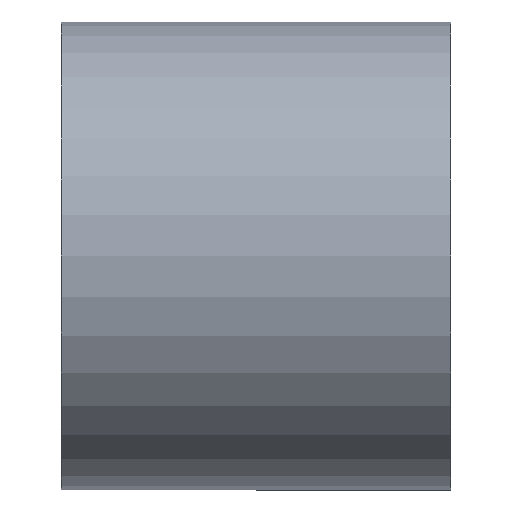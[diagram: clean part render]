
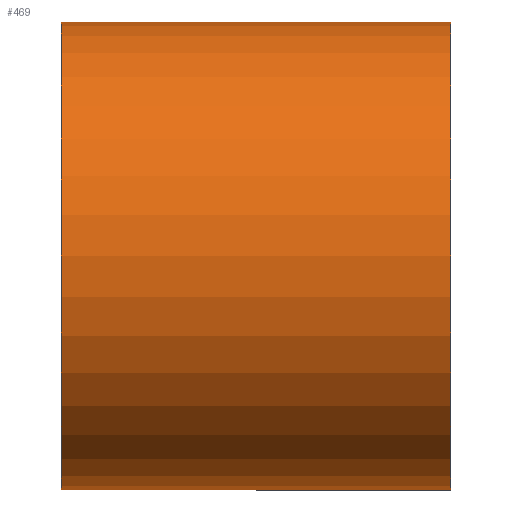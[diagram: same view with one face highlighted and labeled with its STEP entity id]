
A CAD part, front view. The second image highlights one B-rep face of the part: STEP entity #469.
In plain terms, the highlighted cylindrical face has radius 30 mm (diameter 60 mm), a partial arc.
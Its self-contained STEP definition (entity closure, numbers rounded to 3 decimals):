
#20 = VECTOR ( 'NONE', #146, 1000. ) ;
#26 = EDGE_CURVE ( 'NONE', #563, #679, #125, .T. ) ;
#48 = CYLINDRICAL_SURFACE ( 'NONE', #244, 30. ) ;
#75 = CARTESIAN_POINT ( 'NONE',  ( -25., 0., 0. ) ) ;
#83 = LINE ( 'NONE', #547, #624 ) ;
#96 = CARTESIAN_POINT ( 'NONE',  ( 0., 0., 0. ) ) ;
#125 = CIRCLE ( 'NONE', #496, 30. ) ;
#130 = ORIENTED_EDGE ( 'NONE', *, *, #490, .F. ) ;
#140 = CARTESIAN_POINT ( 'NONE',  ( 0., 0., 30. ) ) ;
#143 = CARTESIAN_POINT ( 'NONE',  ( 25., 0., -30. ) ) ;
#146 = DIRECTION ( 'NONE',  ( -1., 0., 0. ) ) ;
#152 = VERTEX_POINT ( 'NONE', #143 ) ;
#163 = EDGE_LOOP ( 'NONE', ( #130, #453, #344, #384 ) ) ;
#200 = LINE ( 'NONE', #140, #20 ) ;
#202 = CARTESIAN_POINT ( 'NONE',  ( -25., 0., 30. ) ) ;
#216 = DIRECTION ( 'NONE',  ( 0., 0., 1. ) ) ;
#230 = VERTEX_POINT ( 'NONE', #274 ) ;
#244 = AXIS2_PLACEMENT_3D ( 'NONE', #96, #596, #216 ) ;
#267 = DIRECTION ( 'NONE',  ( -1., 0., 0. ) ) ;
#274 = CARTESIAN_POINT ( 'NONE',  ( 25., 0., 30. ) ) ;
#296 = DIRECTION ( 'NONE',  ( -1., 0., 0. ) ) ;
#336 = EDGE_CURVE ( 'NONE', #152, #230, #484, .T. ) ;
#344 = ORIENTED_EDGE ( 'NONE', *, *, #486, .T. ) ;
#360 = CARTESIAN_POINT ( 'NONE',  ( 25., 0., 0. ) ) ;
#384 = ORIENTED_EDGE ( 'NONE', *, *, #26, .F. ) ;
#414 = DIRECTION ( 'NONE',  ( 0., 0., 1. ) ) ;
#417 = DIRECTION ( 'NONE',  ( 0., 0., 1. ) ) ;
#446 = FACE_OUTER_BOUND ( 'NONE', #163, .T. ) ;
#453 = ORIENTED_EDGE ( 'NONE', *, *, #336, .T. ) ;
#469 = ADVANCED_FACE ( 'NONE', ( #446 ), #48, .T. ) ;
#484 = CIRCLE ( 'NONE', #587, 30. ) ;
#486 = EDGE_CURVE ( 'NONE', #230, #679, #200, .T. ) ;
#490 = EDGE_CURVE ( 'NONE', #152, #563, #83, .T. ) ;
#495 = CARTESIAN_POINT ( 'NONE',  ( -25., 0., -30. ) ) ;
#496 = AXIS2_PLACEMENT_3D ( 'NONE', #75, #296, #417 ) ;
#547 = CARTESIAN_POINT ( 'NONE',  ( 0., 0., -30. ) ) ;
#563 = VERTEX_POINT ( 'NONE', #495 ) ;
#581 = DIRECTION ( 'NONE',  ( -1., 0., 0. ) ) ;
#587 = AXIS2_PLACEMENT_3D ( 'NONE', #360, #581, #414 ) ;
#596 = DIRECTION ( 'NONE',  ( -1., 0., 0. ) ) ;
#624 = VECTOR ( 'NONE', #267, 1000. ) ;
#679 = VERTEX_POINT ( 'NONE', #202 ) ;
